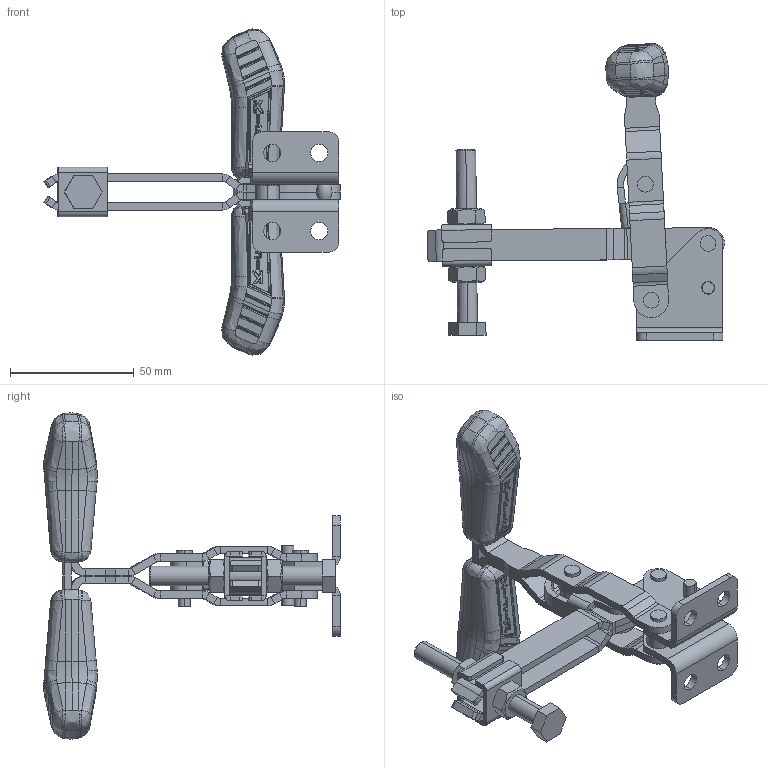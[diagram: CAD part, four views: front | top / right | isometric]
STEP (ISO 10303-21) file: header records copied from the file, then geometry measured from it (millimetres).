
FILE_DESCRIPTION (( 'STEP AP203' ), '1' );
FILE_NAME ('KF-017 DTL.STEP', '2018-06-04T18:32:21', ( 'Ricardo' ), ( '' ), 'SwSTEP 2.0', 'SolidWorks 2018', '' );
FILE_SCHEMA (( 'CONFIG_CONTROL_DESIGN' ));
Length unit declared in the file: millimetre
Products named in the file (16): 07.60005; 01.10324; KF-017 DTL; 04.10001; 06.50002; 02.12001_Direita; 04.20001; 02.12001_Esquerda; 14.10001; 03.14001_Direita; 11.50002; 03.14001_Esquerda; 12.50003; 06.50001; 01.10325; 05.20017
Assembly tree (22 placements, depth 2):
  KF-017 DTL
    02.12001_Direita
    02.12001_Esquerda
    03.14001_Direita
    03.14001_Esquerda
    06.50001  x2
    05.20017  x2
    01.10324  x2
    04.10001
    06.50002  x2
    04.20001
    14.10001  x2
    11.50002  x2
    12.50003
    01.10325
    07.60005  x2
Bounding box: 119.94 x 119.89 x 131.96 mm (x, y, z)
Volume: 78881.8 mm3; surface area: 52754.6 mm2
Topology: 22 solids, 22 shells, 1739 faces, 4350 edges, 2684 vertices
Faces by surface type: bspline 538, cylinder 534, plane 523, sphere 100, cone 38, torus 6
Entity records: 37501 total; most frequent: CARTESIAN_POINT 14861, ORIENTED_EDGE 4832, DIRECTION 3633, EDGE_CURVE 2416, VERTEX_POINT 1495, AXIS2_PLACEMENT_3D 1335, EDGE_LOOP 1049, FACE_OUTER_BOUND 974
